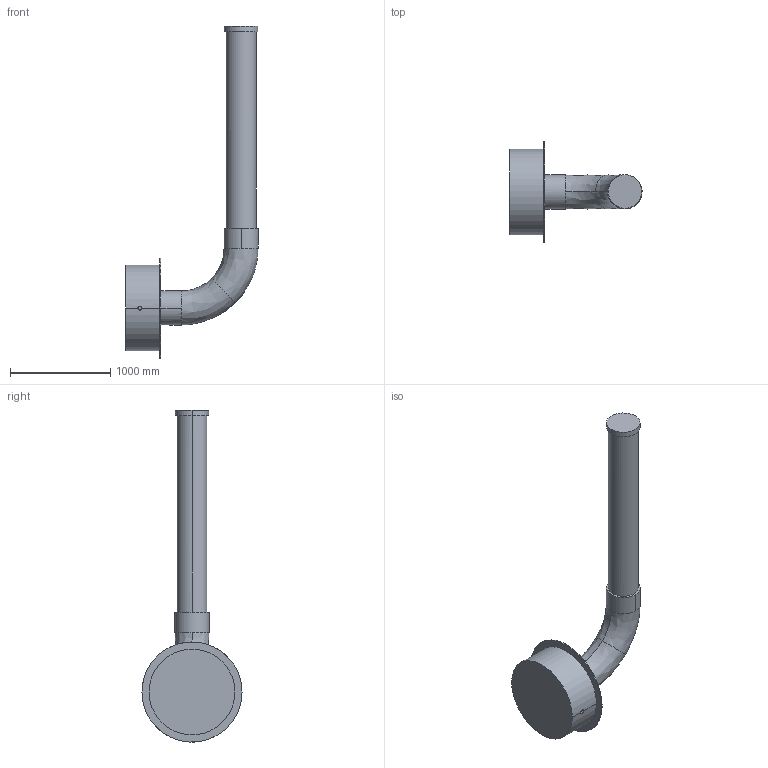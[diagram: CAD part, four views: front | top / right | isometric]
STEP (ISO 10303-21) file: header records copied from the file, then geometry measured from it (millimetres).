
FILE_DESCRIPTION(/* description */ (''),/* implementation_level */ '2;1');
FILE_NAME(/* name */ '4646_3d',/* time_stamp */ '2024-02-17T14:01:20+01:00',/* author */ (''),/* organization */ (''),/* preprocessor_version */ 'ST-DEVELOPER v16.5',/* originating_system */ 'Rhino 7.18',/* authorisation */ '');
FILE_SCHEMA (('CONFIG_CONTROL_DESIGN'));
Length unit declared in the file: centimetre
Products named in the file (1): Document
Bounding box: 1320 x 1000 x 3317.92 mm (x, y, z)
Volume: 469961767.1 mm3; surface area: 7529823.4 mm2
Topology: 5 solids, 5 shells, 32 faces, 64 edges, 42 vertices
Faces by surface type: cylinder 16, plane 12, bspline 4
Entity records: 950 total; most frequent: CARTESIAN_POINT 412, ORIENTED_EDGE 128, EDGE_CURVE 64, VERTEX_POINT 42, ADVANCED_FACE 32, FACE_OUTER_BOUND 32, EDGE_LOOP 32, DIRECTION 32
